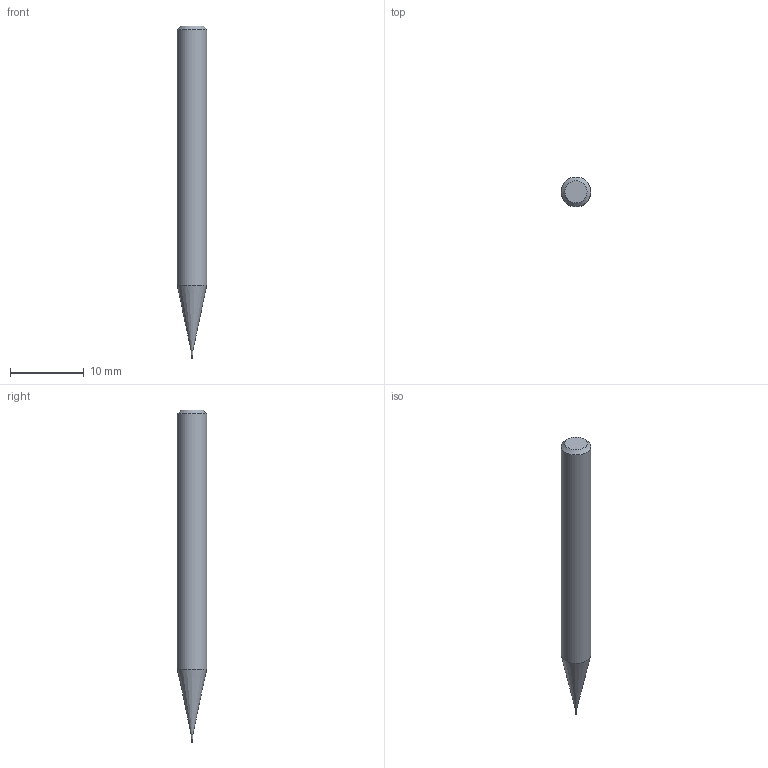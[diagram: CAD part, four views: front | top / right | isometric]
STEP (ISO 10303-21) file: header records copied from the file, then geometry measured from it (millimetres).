
FILE_DESCRIPTION((''),'2;1');
FILE_NAME('C:\Users\nsx150\AppData\Local\Temp\Mastercam 2021\YKS1SUSFZB\TEMP.step','2025-06-23T14:02:52',(''),(''),'STEP Write','Mastercam 2021 ... CNC Software, Inc.','');
FILE_SCHEMA(('AUTOMOTIVE_DESIGN'));
Length unit declared in the file: millimetre
Products named in the file (1): None
Bounding box: 4 x 4 x 45 mm (x, y, z)
Volume: 479.2 mm3; surface area: 510.7 mm2
Topology: 2 solids, 2 shells, 11 faces, 16 edges, 9 vertices
Faces by surface type: plane 4, cylinder 3, cone 3, torus 1
Full cylindrical faces by diameter (mm): 0.192 x1, 0.2 x1, 4 x1
Entity records: 253 total; most frequent: DIRECTION 44, CARTESIAN_POINT 31, AXIS2_PLACEMENT_3D 22, ORIENTED_EDGE 18, EDGE_LOOP 18, STYLED_ITEM 14, ADVANCED_FACE 11, FACE_BOUND 11
